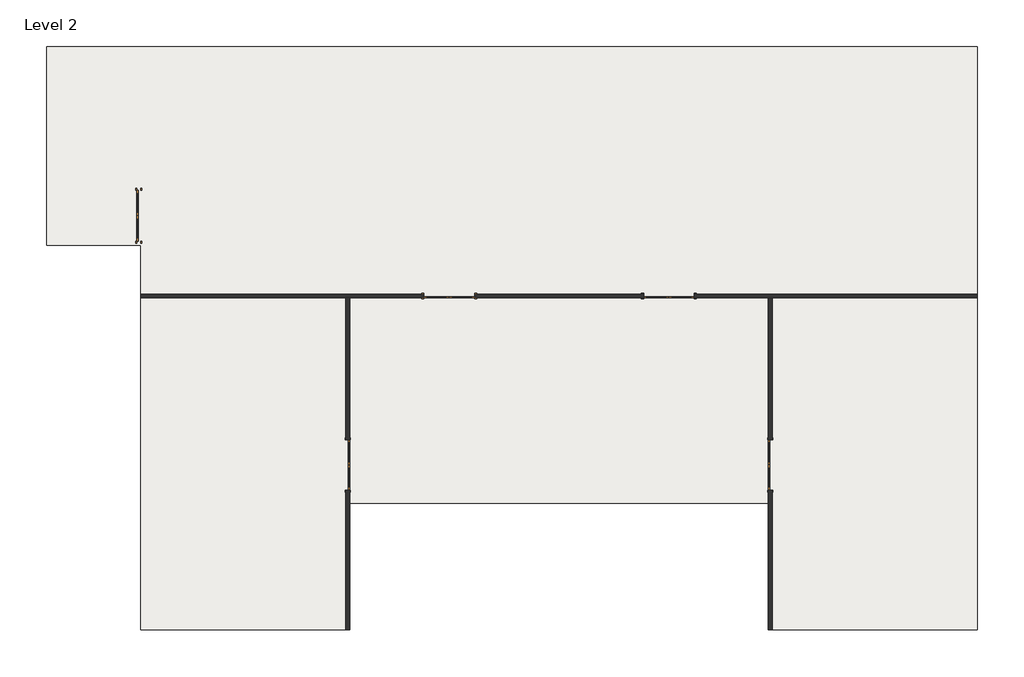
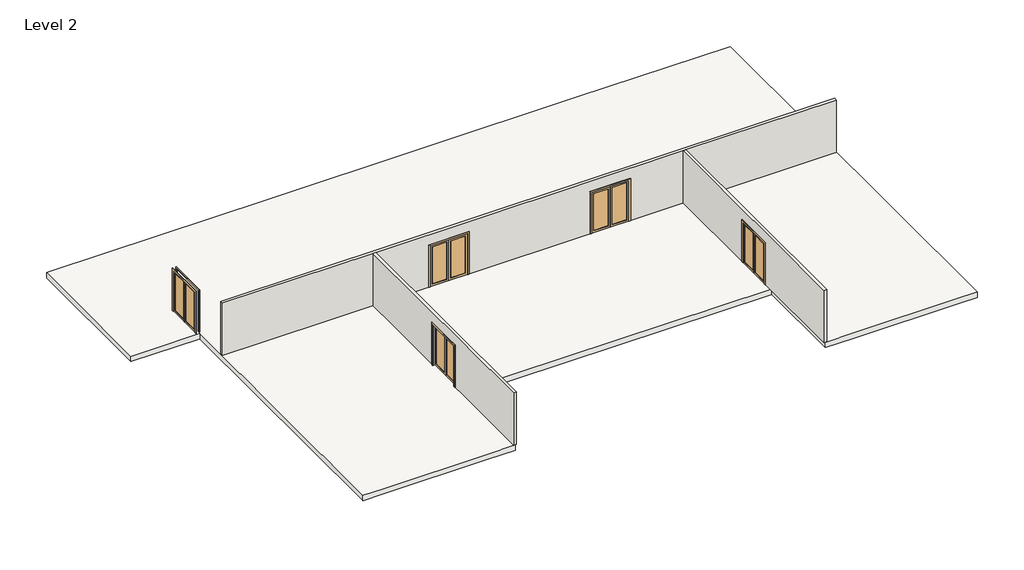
# One storey: 5 doors, 3 walls, 1 slab.
"""IFC4 building model written with IfcOpenShell, lengths in millimetres."""

from ifc_helpers import new_model, si_unit, origin, place, context, project, spatial, faceted_brep, transform, mapped, element, save
from components import door_cb31edf2, door_3f2f997e

model = new_model("IFC4")

# Units and contexts
model_context = context("Model", 3, world=origin())
ifc_project = project(units=[si_unit("LENGTHUNIT", "METRE", prefix="MILLI")], contexts=[model_context])

# Site, building, storey
site = spatial("IfcSite", under=ifc_project)
building = spatial("IfcBuilding", under=site)
storey = spatial("IfcBuildingStorey", under=building, Name="Level 2", Elevation=3048.0)

# Doors
placement = place(None, origin())
door_shape = door_cb31edf2(model_context)
element("IfcDoor", 1, ObjectType="Door-Double-Glass : 72\" x 84\"", at=placement, inside=storey, context=model_context, shape_type="MappedRepresentation", body=[
    mapped(door_shape, transform((-18248.748632, 9505.1983604, 3048.0), x_axis=(0.0, 1.0, 0.0), y_axis=(-1.0, 0.0, 0.0), z_axis=(0.0, 0.0, 1.0))),
])
door_2_shape = door_3f2f997e(model_context)
element("IfcDoor", 2, ObjectType="Door-Double-Glass : 72\" x 84\"", at=placement, inside=storey, context=model_context, shape_type="MappedRepresentation", body=[
    mapped(door_2_shape, transform((-10711.298632, 513.5983604, 3048.0), x_axis=(0.0, -1.0, 0.0), y_axis=(1.0, 0.0, 0.0), z_axis=(0.0, 0.0, 1.0))),
])
element("IfcDoor", 3, ObjectType="Door-Double-Glass : 72\" x 84\"", at=placement, inside=storey, context=model_context, shape_type="MappedRepresentation", body=[
    mapped(door_2_shape, transform((4533.463868, 513.5983604, 3048.0), x_axis=(0.0, 1.0, 0.0), y_axis=(-1.0, 0.0, 0.0), z_axis=(0.0, 0.0, 1.0))),
])
element("IfcDoor", 4, ObjectType="Door-Double-Glass : 72\" x 84\"", at=placement, inside=storey, context=model_context, shape_type="MappedRepresentation", body=[
    mapped(door_2_shape, transform((-7051.317382, 6611.9796104, 3048.0), x_axis=(-1.0, 0.0, 0.0), y_axis=(0.0, -1.0, 0.0), z_axis=(0.0, 0.0, 1.0))),
])
element("IfcDoor", 5, ObjectType="Door-Double-Glass : 72\" x 84\"", at=placement, inside=storey, context=model_context, shape_type="MappedRepresentation", body=[
    mapped(door_2_shape, transform((873.482618, 6611.9796104, 3048.0), x_axis=(-1.0, 0.0, 0.0), y_axis=(0.0, -1.0, 0.0), z_axis=(0.0, 0.0, 1.0))),
])

# Slab
element("IfcSlab", 6, ObjectType="Wood Joist 10\" - Wood Finish", at=placement, inside=storey, context=model_context, shape_type="Brep", body=[
    faceted_brep([(12008.207618, 15610.7233604, 2774.95), (12008.207618, 15598.0233604, 2774.95), (12008.207618, -5439.5266396, 2774.95), (11995.507618, -5439.5266396, 2774.95), (11084.282618, -5439.5266396, 2774.95), (5902.682618, -5439.5266396, 2774.95), (4531.082618, -5439.5266396, 2774.95), (4531.082618, -5426.8266396, 2774.95), (4531.082618, -867.5266396, 2774.95), (-10708.917382, -867.5266396, 2774.95), (-10708.917382, -5426.8266396, 2774.95), (-10708.917382, -5439.5266396, 2774.95), (-12080.517382, -5439.5266396, 2774.95), (-17262.117382, -5439.5266396, 2774.95), (-18186.042382, -5439.5266396, 2774.95), (-18186.042382, -5426.8266396, 2774.95), (-18186.042382, 8438.3983604, 2774.95), (-21580.117382, 8438.3983604, 2774.95), (-21580.117382, 15610.7233604, 2774.95), (-21424.542382, 15610.7233604, 2774.95), (-10708.917382, 15610.7233604, 2774.95), (4531.082618, 15610.7233604, 2774.95), (12008.207618, 15610.7233604, 3048.0), (4531.082618, 15610.7233604, 3048.0), (-10708.917382, 15610.7233604, 3048.0), (-21424.542382, 15610.7233604, 3048.0), (-21580.117382, 15610.7233604, 3048.0), (-21580.117382, 8438.3983604, 3048.0), (-18186.042382, 8438.3983604, 3048.0), (-18186.042382, -5426.8266396, 3048.0), (-18186.042382, -5439.5266396, 3048.0), (-17262.117382, -5439.5266396, 3048.0), (-12080.517382, -5439.5266396, 3048.0), (-10708.917382, -5439.5266396, 3048.0), (-10708.917382, -5426.8266396, 3048.0), (-10708.917382, -867.5266396, 3048.0), (4531.082618, -867.5266396, 3048.0), (4531.082618, -5426.8266396, 3048.0), (4531.082618, -5439.5266396, 3048.0), (5902.682618, -5439.5266396, 3048.0), (11084.282618, -5439.5266396, 3048.0), (11995.507618, -5439.5266396, 3048.0), (12008.207618, -5439.5266396, 3048.0), (12008.207618, 15598.0233604, 3048.0)], [[[0, 1, 2, 3, 4, 5, 6, 7, 8, 9, 10, 11, 12, 13, 14, 15, 16, 17, 18, 19, 20, 21]], [[22, 23, 24, 25, 26, 27, 28, 29, 30, 31, 32, 33, 34, 35, 36, 37, 38, 39, 40, 41, 42, 43]], [[2, 1, 0, 22, 43, 42]], [[6, 5, 4, 3, 2, 42, 41, 40, 39, 38]], [[14, 13, 12, 11, 33, 32, 31, 30]], [[16, 15, 14, 30, 29, 28]], [[17, 16, 28, 27]], [[18, 17, 27, 26]], [[0, 21, 20, 19, 18, 26, 25, 24, 23, 22]], [[8, 7, 6, 38, 37, 36]], [[9, 8, 36, 35]], [[11, 10, 9, 35, 34, 33]]]),
])

# Walls
element("IfcWall", 7, ObjectType="Interior - 5 1/2\" Partition (1-hr)", at=placement, inside=storey, context=model_context, shape_type="Brep", body=[
    faceted_brep([(-6136.917382, 6539.7483604, 3048.0), (-40.917382, 6539.7483604, 3048.0), (-40.917382, 6539.7483604, 5181.6), (1787.882618, 6539.7483604, 5181.6), (1787.882618, 6539.7483604, 3048.0), (4461.232618, 6539.7483604, 3048.0), (4600.932618, 6539.7483604, 3048.0), (11995.507618, 6539.7483604, 3048.0), (11995.507618, 6539.7483604, 5772.15), (4600.932618, 6539.7483604, 5772.15), (4461.232618, 6539.7483604, 5772.15), (-10639.067382, 6539.7483604, 5772.15), (-10778.767382, 6539.7483604, 5772.15), (-18173.342382, 6539.7483604, 5772.15), (-18173.342382, 6539.7483604, 3048.0), (-10778.767382, 6539.7483604, 3048.0), (-10639.067382, 6539.7483604, 3048.0), (-7965.717382, 6539.7483604, 3048.0), (-7965.717382, 6539.7483604, 5181.6), (-6136.917382, 6539.7483604, 5181.6), (-40.917382, 6679.4483604, 5181.6), (-40.917382, 6679.4483604, 3048.0), (-6136.917382, 6679.4483604, 3048.0), (-6136.917382, 6679.4483604, 5181.6), (-7965.717382, 6679.4483604, 5181.6), (-7965.717382, 6679.4483604, 3048.0), (-18173.342382, 6679.4483604, 3048.0), (-18173.342382, 6679.4483604, 5772.15), (11995.507618, 6679.4483604, 5772.15), (11995.507618, 6679.4483604, 3048.0), (1787.882618, 6679.4483604, 3048.0), (1787.882618, 6679.4483604, 5181.6)], [[[0, 1, 2, 3, 4, 5, 6, 7, 8, 9, 10, 11, 12, 13, 14, 15, 16, 17, 18, 19]], [[20, 21, 22, 23, 24, 25, 26, 27, 28, 29, 30, 31]], [[26, 25, 17, 16, 15, 14]], [[30, 29, 7, 6, 5, 4]], [[22, 21, 1, 0]], [[13, 12, 11, 10, 9, 8, 28, 27]], [[8, 7, 29, 28]], [[14, 13, 27, 26]], [[2, 1, 21, 20]], [[3, 2, 20, 31]], [[4, 3, 31, 30]], [[18, 17, 25, 24]], [[19, 18, 24, 23]], [[0, 19, 23, 22]]]),
])
element("IfcWall", 8, ObjectType="Interior - 5 1/2\" Partition (1-hr)", at=placement, inside=storey, context=model_context, shape_type="Brep", body=[
    faceted_brep([(4461.232618, 6539.7483604, 3048.0), (4461.232618, 1427.9983604, 3048.0), (4461.232618, 1427.9983604, 5181.6), (4461.232618, -400.8016396, 5181.6), (4461.232618, -400.8016396, 3048.0), (4461.232618, -5426.8266396, 3048.0), (4461.232618, -5426.8266396, 5772.15), (4461.232618, 6539.7483604, 5772.15), (4600.932618, 1427.9983604, 5181.6), (4600.932618, 1427.9983604, 3048.0), (4600.932618, 6539.7483604, 3048.0), (4600.932618, 6539.7483604, 5772.15), (4600.932618, -5426.8266396, 5772.15), (4600.932618, -5426.8266396, 3048.0), (4600.932618, -400.8016396, 3048.0), (4600.932618, -400.8016396, 5181.6), (4531.082618, -5426.8266396, 3048.0)], [[[0, 1, 2, 3, 4, 5, 6, 7]], [[8, 9, 10, 11, 12, 13, 14, 15]], [[10, 9, 1, 0]], [[14, 13, 16, 5, 4]], [[0, 7, 11, 10]], [[6, 5, 16, 13, 12]], [[7, 6, 12, 11]], [[2, 1, 9, 8]], [[3, 2, 8, 15]], [[4, 3, 15, 14]]]),
])
element("IfcWall", 9, ObjectType="Interior - 5 1/2\" Partition (1-hr)", at=placement, inside=storey, context=model_context, shape_type="Brep", body=[
    faceted_brep([(-10778.767382, -400.8016396, 5181.6), (-10778.767382, -400.8016396, 3048.0), (-10778.767382, -5426.8266396, 3048.0), (-10778.767382, -5426.8266396, 5772.15), (-10778.767382, 6539.7483604, 5772.15), (-10778.767382, 6539.7483604, 3048.0), (-10778.767382, 1427.9983604, 3048.0), (-10778.767382, 1427.9983604, 5181.6), (-10639.067382, -5426.8266396, 3048.0), (-10639.067382, -400.8016396, 3048.0), (-10639.067382, -400.8016396, 5181.6), (-10639.067382, 1427.9983604, 5181.6), (-10639.067382, 1427.9983604, 3048.0), (-10639.067382, 6539.7483604, 3048.0), (-10639.067382, 6539.7483604, 5772.15), (-10639.067382, -5426.8266396, 5772.15), (-10708.917382, -5426.8266396, 3048.0)], [[[0, 1, 2, 3, 4, 5, 6, 7]], [[8, 9, 10, 11, 12, 13, 14, 15]], [[2, 1, 9, 8, 16]], [[6, 5, 13, 12]], [[5, 4, 14, 13]], [[3, 2, 16, 8, 15]], [[4, 3, 15, 14]], [[10, 9, 1, 0]], [[11, 10, 0, 7]], [[12, 11, 7, 6]]]),
])

save(model, "model.ifc")
